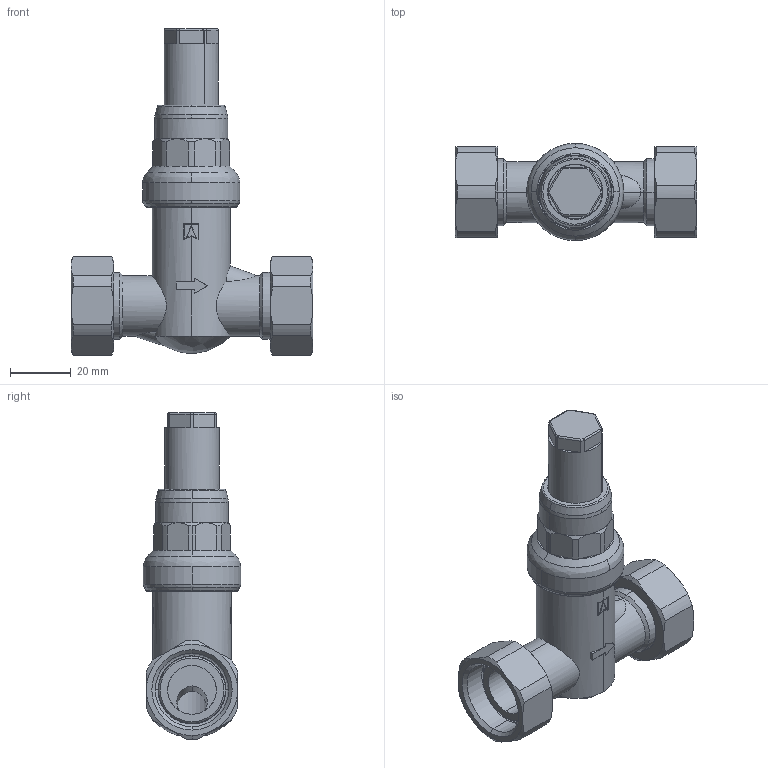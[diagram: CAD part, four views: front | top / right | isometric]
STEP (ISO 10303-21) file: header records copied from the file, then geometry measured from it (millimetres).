
FILE_DESCRIPTION (( 'STEP AP214' ), '1' );
FILE_NAME ('42384.STEP', '2022-05-23T06:55:28', ( '' ), ( '' ), 'SwSTEP 2.0', 'SolidWorks 2021', '' );
FILE_SCHEMA (( 'AUTOMOTIVE_DESIGN' ));
Length unit declared in the file: millimetre
Products named in the file (8): _X_DCBERWURFMUTTER_05 00 350444; _X_DCberwurfmutter G3_4_05 07 000331; 42384; _X_DCberstr_X_F6mventil Lu 3; Innenteile; SPINDEL_05 00 350543; GEH_X_C4USE_Schlank_05 00 410481; _X_DCberwurfmutter G3_4_05 07 000331_2
Assembly tree (7 placements, depth 4):
  42384
    _X_DCberstr_X_F6mventil Lu 3
      _X_DCberwurfmutter G3_4_05 07 000331
      _X_DCberwurfmutter G3_4_05 07 000331_2
      Innenteile
        _X_DCBERWURFMUTTER_05 00 350444
        SPINDEL_05 00 350543
      GEH_X_C4USE_Schlank_05 00 410481
Bounding box: 79.6 x 32 x 107.45 mm (x, y, z)
Volume: 41042.6 mm3; surface area: 33136.9 mm2
Topology: 5 solids, 5 shells, 424 faces, 1073 edges, 670 vertices
Faces by surface type: plane 155, cylinder 136, cone 82, bspline 51
Entity records: 21534 total; most frequent: CARTESIAN_POINT 6711, ORIENTED_EDGE 2142, DIRECTION 2039, EDGE_CURVE 1071, AXIS2_PLACEMENT_3D 802, VERTEX_POINT 670, EDGE_LOOP 447, UNCERTAINTY_MEASURE_WITH_UNIT 442
